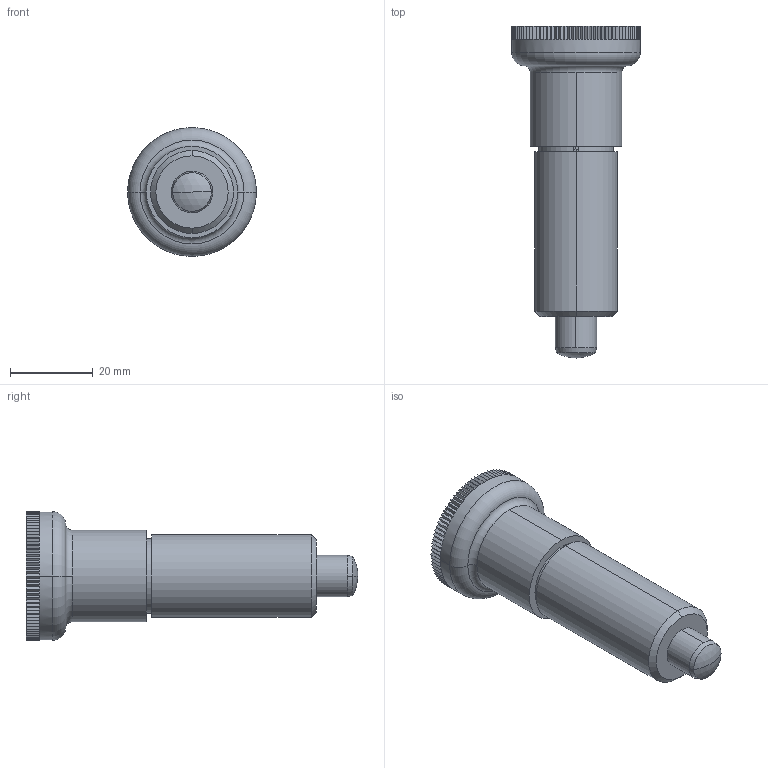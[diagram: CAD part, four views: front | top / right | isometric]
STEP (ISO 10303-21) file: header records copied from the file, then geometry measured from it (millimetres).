
FILE_DESCRIPTION (( 'STEP AP203' ), '1' );
FILE_NAME ('32742.W0710.step', '2011-04-26T13:37:41', ( 'Wixroyd' ), ( 'Wixroyd' ), 'SwSTEP 2.0', 'SolidWorks 2009', '' );
FILE_SCHEMA (( 'CONFIG_CONTROL_DESIGN' ));
Length unit declared in the file: millimetre
Products named in the file (5): Part1_3274.W450; Part4_3274.W450; 32742.W0710; Part2_3274.W450; Part3_3274.W450
Assembly tree (4 placements, depth 2):
  32742.W0710
    Part1_3274.W450
    Part3_3274.W450
    Part2_3274.W450
    Part4_3274.W450
Bounding box: 31 x 80 x 31 mm (x, y, z)
Volume: 26190.1 mm3; surface area: 11155.9 mm2
Topology: 4 solids, 4 shells, 413 faces, 1000 edges, 602 vertices
Faces by surface type: plane 367, cylinder 30, cone 8, torus 4, sphere 4
Entity records: 12299 total; most frequent: DIRECTION 2066, CARTESIAN_POINT 2022, ORIENTED_EDGE 2000, EDGE_CURVE 1000, VECTOR 774, LINE 774, AXIS2_PLACEMENT_3D 646, VERTEX_POINT 602
